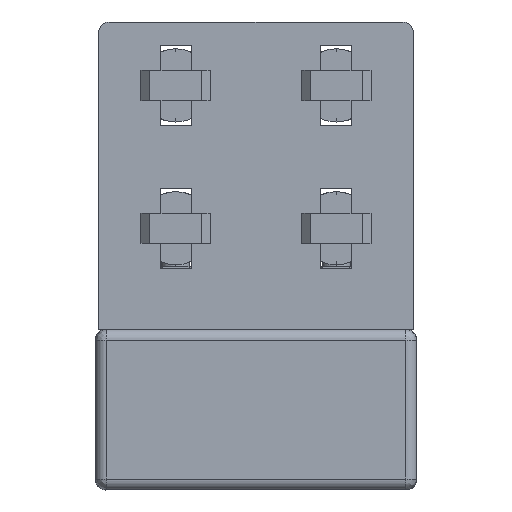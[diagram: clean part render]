
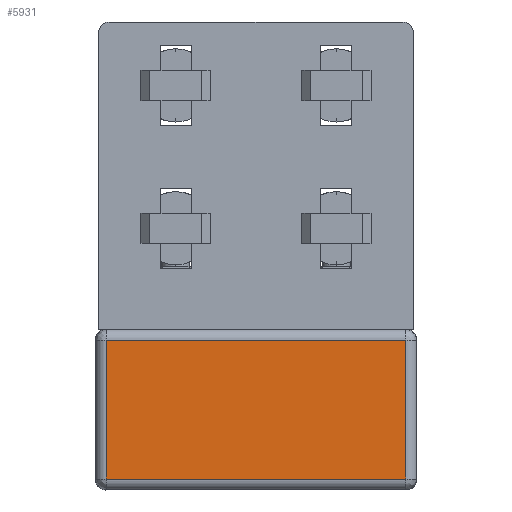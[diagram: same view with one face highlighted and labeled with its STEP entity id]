
A CAD part, left-side view. The second image highlights one B-rep face of the part: STEP entity #5931.
In plain terms, the highlighted planar face has unit normal (-1, 0, 0).
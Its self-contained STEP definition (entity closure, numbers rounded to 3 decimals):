
#153 = VECTOR ( 'NONE', #15864, 1000. ) ;
#589 = CARTESIAN_POINT ( 'NONE',  ( -356.942, 22.086, 0. ) ) ;
#960 = ORIENTED_EDGE ( 'NONE', *, *, #18905, .F. ) ;
#1198 = EDGE_CURVE ( 'NONE', #22765, #27818, #20781, .T. ) ;
#4009 = FACE_OUTER_BOUND ( 'NONE', #6091, .T. ) ;
#4498 = VERTEX_POINT ( 'NONE', #5067 ) ;
#4773 = ORIENTED_EDGE ( 'NONE', *, *, #1198, .F. ) ;
#5067 = CARTESIAN_POINT ( 'NONE',  ( -356.942, -19.836, -19.423 ) ) ;
#5264 = VECTOR ( 'NONE', #24994, 1000. ) ;
#5604 = LINE ( 'NONE', #8510, #21401 ) ;
#5931 = ADVANCED_FACE ( 'NONE', ( #4009 ), #6207, .F. ) ;
#6000 = CARTESIAN_POINT ( 'NONE',  ( -356.942, -19.836, 19.423 ) ) ;
#6091 = EDGE_LOOP ( 'NONE', ( #960, #18323, #26347, #4773 ) ) ;
#6207 = PLANE ( 'NONE',  #19043 ) ;
#8510 = CARTESIAN_POINT ( 'NONE',  ( -356.942, 22.086, -19.423 ) ) ;
#8604 = LINE ( 'NONE', #13881, #5264 ) ;
#11240 = VECTOR ( 'NONE', #34469, 1000. ) ;
#11494 = DIRECTION ( 'NONE',  ( 1., 0., 0. ) ) ;
#13881 = CARTESIAN_POINT ( 'NONE',  ( -356.942, 64.009, 0. ) ) ;
#15005 = LINE ( 'NONE', #17389, #11240 ) ;
#15137 = CARTESIAN_POINT ( 'NONE',  ( -356.942, 22.086, 19.423 ) ) ;
#15864 = DIRECTION ( 'NONE',  ( 0., -1., 0. ) ) ;
#16063 = CARTESIAN_POINT ( 'NONE',  ( -356.942, 64.009, 19.423 ) ) ;
#17120 = DIRECTION ( 'NONE',  ( 0., 0., -1. ) ) ;
#17389 = CARTESIAN_POINT ( 'NONE',  ( -356.942, -19.836, 0. ) ) ;
#18323 = ORIENTED_EDGE ( 'NONE', *, *, #35521, .F. ) ;
#18905 = EDGE_CURVE ( 'NONE', #35206, #22765, #8604, .T. ) ;
#19043 = AXIS2_PLACEMENT_3D ( 'NONE', #589, #11494, #17120 ) ;
#20781 = LINE ( 'NONE', #15137, #153 ) ;
#21401 = VECTOR ( 'NONE', #33786, 1000. ) ;
#22765 = VERTEX_POINT ( 'NONE', #16063 ) ;
#24994 = DIRECTION ( 'NONE',  ( 0., 0., 1. ) ) ;
#26347 = ORIENTED_EDGE ( 'NONE', *, *, #28241, .F. ) ;
#27818 = VERTEX_POINT ( 'NONE', #6000 ) ;
#28241 = EDGE_CURVE ( 'NONE', #27818, #4498, #15005, .T. ) ;
#31830 = CARTESIAN_POINT ( 'NONE',  ( -356.942, 64.009, -19.423 ) ) ;
#33786 = DIRECTION ( 'NONE',  ( 0., 1., 0. ) ) ;
#34469 = DIRECTION ( 'NONE',  ( 0., 0., -1. ) ) ;
#35206 = VERTEX_POINT ( 'NONE', #31830 ) ;
#35521 = EDGE_CURVE ( 'NONE', #4498, #35206, #5604, .T. ) ;
